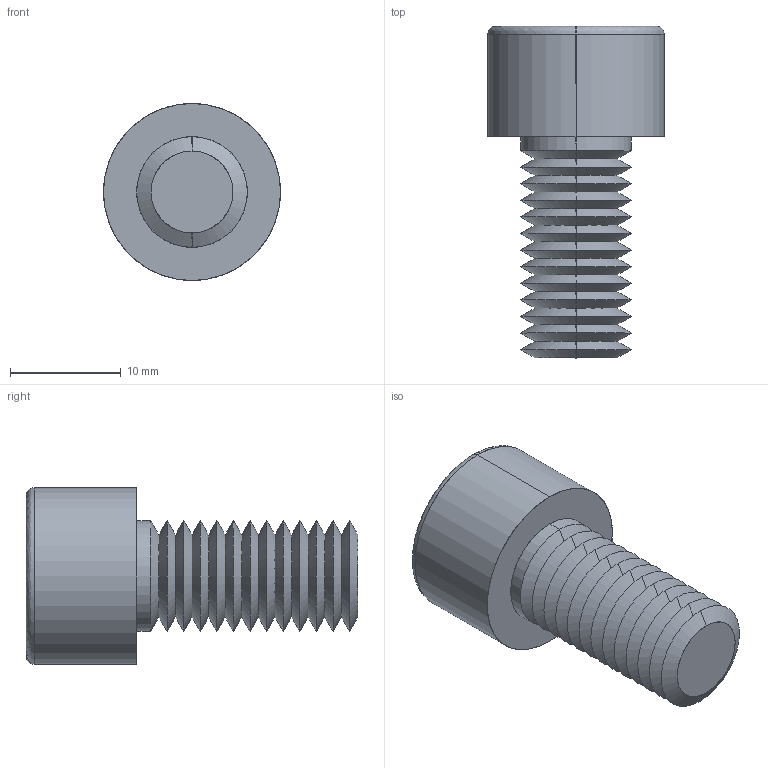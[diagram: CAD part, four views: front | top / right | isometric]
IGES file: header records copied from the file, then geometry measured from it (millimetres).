
Start section: SolidWorks IGES file using analytic representation for surfaces
Global section: file name: C:\Users\ianosborn\Desktop\N0007.91N_v2\N0007.91N_v2_20250519_IGES\91N.100.0200.igs; native system: SolidWorks 2019; preprocessor: SolidWorks 2019; author: IanOsborn; date: 250520.095500; units: millimetre
Bounding box: 16 x 30 x 16 mm (x, y, z)
Surface area: 2144 mm2 (no closed solid volume)
Topology: 0 solids, 0 shells, 80 faces, 541 edges, 539 vertices
Faces by surface type: revolution 63, bspline 17
